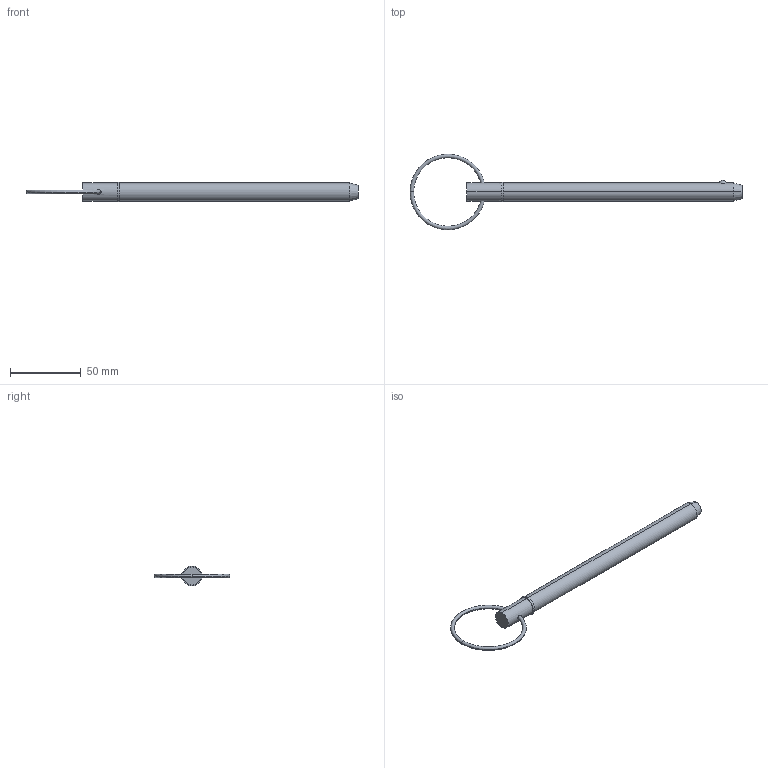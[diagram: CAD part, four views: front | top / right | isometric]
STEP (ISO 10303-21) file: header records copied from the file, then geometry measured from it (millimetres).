
FILE_DESCRIPTION (( 'STEP AP203' ), '1' );
FILE_NAME ('33014.W5060.step', '2024-11-04T08:31:03', ( '' ), ( '' ), 'SwSTEP 2.0', 'SolidWorks 2019', '' );
FILE_SCHEMA (( 'CONFIG_CONTROL_DESIGN' ));
Length unit declared in the file: millimetre
Products named in the file (3): Part1_33014.W5060; Part2_33014.W5060; 33014.W5060
Assembly tree (2 placements, depth 2):
  33014.W5060
    Part1_33014.W5060
    Part2_33014.W5060
Bounding box: 234.03 x 53.34 x 13.97 mm (x, y, z)
Volume: 25162.6 mm3; surface area: 9368.9 mm2
Topology: 2 solids, 2 shells, 22 faces, 43 edges, 26 vertices
Faces by surface type: torus 8, cylinder 6, plane 4, sphere 2, cone 2
Entity records: 1039 total; most frequent: CARTESIAN_POINT 262, DIRECTION 120, ORIENTED_EDGE 86, AXIS2_PLACEMENT_3D 56, EDGE_CURVE 43, CIRCLE 29, EDGE_LOOP 27, VERTEX_POINT 26
